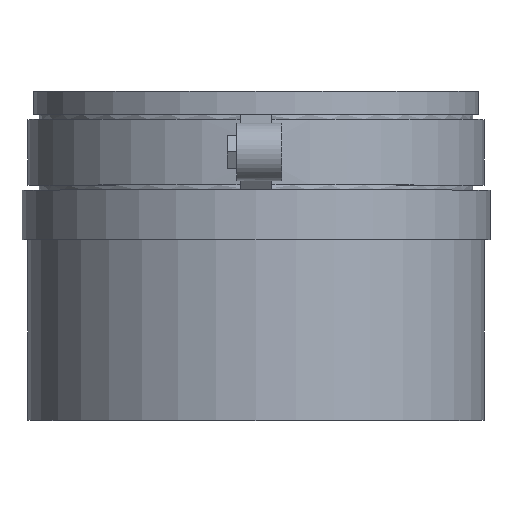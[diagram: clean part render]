
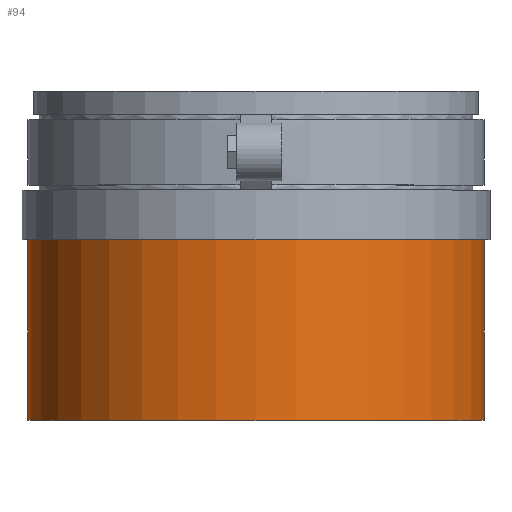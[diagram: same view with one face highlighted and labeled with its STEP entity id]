
A CAD part, top view. The second image highlights one B-rep face of the part: STEP entity #94.
In plain terms, the highlighted cylindrical face has radius 71.5 mm (diameter 143 mm), a full revolution.
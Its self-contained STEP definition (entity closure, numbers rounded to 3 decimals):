
#94 = ADVANCED_FACE( '', ( #226, #227 ), #228, .T. );
#226 = FACE_OUTER_BOUND( '', #409, .T. );
#227 = FACE_OUTER_BOUND( '', #410, .T. );
#228 = CYLINDRICAL_SURFACE( '', #411, 71.5 );
#409 = EDGE_LOOP( '', ( #627 ) );
#410 = EDGE_LOOP( '', ( #628 ) );
#411 = AXIS2_PLACEMENT_3D( '', #629, #630, #631 );
#627 = ORIENTED_EDGE( '', *, *, #1067, .F. );
#628 = ORIENTED_EDGE( '', *, *, #1068, .T. );
#629 = CARTESIAN_POINT( '', ( 0., 0., 0. ) );
#630 = DIRECTION( '', ( 0., 1., 0. ) );
#631 = DIRECTION( '', ( 0., 0., -1. ) );
#1067 = EDGE_CURVE( '', #1281, #1281, #1282, .T. );
#1068 = EDGE_CURVE( '', #1283, #1283, #1284, .T. );
#1281 = VERTEX_POINT( '', #1579 );
#1282 = CIRCLE( '', #1580, 71.5 );
#1283 = VERTEX_POINT( '', #1581 );
#1284 = CIRCLE( '', #1582, 71.5 );
#1579 = CARTESIAN_POINT( '', ( 0., 0., -71.5 ) );
#1580 = AXIS2_PLACEMENT_3D( '', #1915, #1916, #1917 );
#1581 = CARTESIAN_POINT( '', ( 0., 56.65, -71.5 ) );
#1582 = AXIS2_PLACEMENT_3D( '', #1918, #1919, #1920 );
#1915 = CARTESIAN_POINT( '', ( 0., 0., 0. ) );
#1916 = DIRECTION( '', ( 0., -1., 0. ) );
#1917 = DIRECTION( '', ( 0., 0., -1. ) );
#1918 = CARTESIAN_POINT( '', ( 0., 56.65, 0. ) );
#1919 = DIRECTION( '', ( 0., -1., 0. ) );
#1920 = DIRECTION( '', ( 0., 0., -1. ) );
